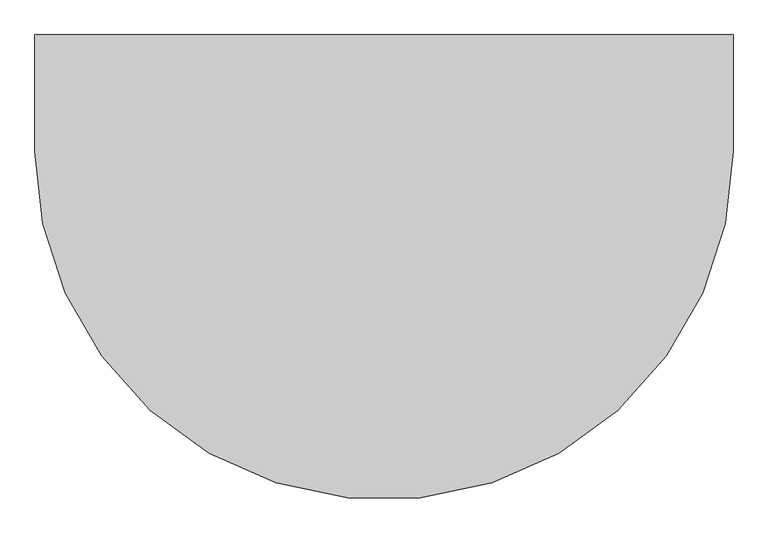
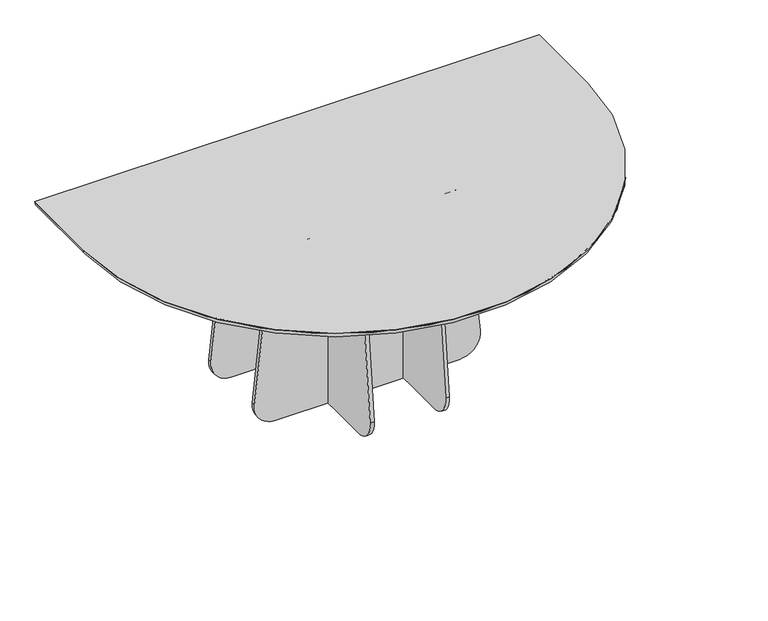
"""IFC4 building model written with IfcOpenShell, lengths in millimetres: furniture geometry, Lundbergs Möbler - Funghi Mèta - Table - Half Moon - 180 - H73 : Lundbergs Möbler - Funghi Mèta - Table - Half Moon - 180 - H73."""

from ifc_helpers import new_model, si_unit, point, frame, frame_2d, origin, place, context, project, spatial, polyline, circle_curve, ellipse_curve, trimmed, segment, composite_curve, outline, extrude, source, transform, mapped, element, save
from ifc_brep_helpers import plane_surface, cylinder_surface, revolved_surface, advanced_brep


def furniture_daae894f(model_context):
    return source(origin(), model_context, "Body", "SolidModel", [
        extrude(outline(composite_curve([segment(polyline([(328.9885604, 0.0), (-328.9885604, 0.0)]), True, "CONTINUOUS"), segment(trimmed(circle_curve(frame_2d((-328.9885604, 75.0)), 75.0), [point((-328.9885604, 0.0))], [point((-403.5717494, 82.8960696))], False, "CARTESIAN"), True, "CONTINUOUS"), segment(polyline([(-403.5717494, 82.8960696), (-338.2393517, 700.000378), (338.2393517, 700.000378), (338.722675, 695.435095), (338.722675, 0.6343694)]), True, "CONTINUOUS"), segment(trimmed(circle_curve(frame_2d((328.9885604, 75.0)), 75.0), [point((338.722675, 0.6343694))], [point((328.9885604, 0.0))], False, "CARTESIAN"), True, "CONTINUOUS")], self_intersect=False)), frame((-141.1465138, 0.0, 0.0), z_axis=(1.0, 0.0, 0.0), x_axis=(0.0, 1.0, 0.0)), (0.0, 0.0, 1.0), 13.4999997),
        extrude(outline(composite_curve([segment(polyline([(328.9885604, 0.0), (-328.9885604, 0.0)]), True, "CONTINUOUS"), segment(trimmed(circle_curve(frame_2d((-328.9885604, 75.0)), 75.0), [point((-328.9885604, 0.0))], [point((-403.5717494, 82.8960696))], False, "CARTESIAN"), True, "CONTINUOUS"), segment(polyline([(-403.5717494, 82.8960696), (-338.2393517, 700.000378), (338.2393517, 700.000378), (338.722675, 695.435095), (338.722675, 0.6343694)]), True, "CONTINUOUS"), segment(trimmed(circle_curve(frame_2d((328.9885604, 75.0)), 75.0), [point((338.722675, 0.6343694))], [point((328.9885604, 0.0))], False, "CARTESIAN"), True, "CONTINUOUS")], self_intersect=False)), frame((127.6465142, 0.0, 0.0), z_axis=(1.0, 0.0, 0.0), x_axis=(0.0, 1.0, 0.0)), (0.0, 0.0, 1.0), 13.4999997),
        advanced_brep(
        [(899.9999872, 356.1679038, 723.9631611), (899.9999872, 356.1679038, 722.4061073), (877.6980213, 356.1679038, 700.1041414), (-877.6979684, 356.1679038, 700.1041414), (-899.9999342, 356.1679038, 722.4061073), (-899.9999342, 356.1679038, 723.9631611), (-899.9999342, 56.0832467, 723.9631611), (899.9999872, 56.0832467, 723.9631611), (899.9999872, 56.0832467, 722.4061073), (877.6980213, 56.0832467, 700.1041414), (-877.6979684, 56.0832467, 700.1041414), (-899.9999342, 56.0832467, 722.4061073)],
        [
            (0, 1),
            (1, 2, circle_curve(frame((877.6980213, 356.1679038, 722.4061073), z_axis=(0.0, 1.0, 0.0), x_axis=(1.0, 0.0, 0.0)), 22.3019658)),
            (2, 3),
            (3, 4, circle_curve(frame((-877.6979684, 356.1679038, 722.4061073), z_axis=(0.0, 1.0, 0.0), x_axis=(-1.0, 0.0, 0.0)), 22.3019658)),
            (4, 5),
            (5, 0),
            (5, 6),
            (6, 7, circle_curve(frame((2.65e-05, 56.0832467, 723.9631611), z_axis=(0.0, 0.0, 1.0), x_axis=(1.0, 0.0, 0.0)), 899.9999607)),
            (7, 0),
            (7, 8),
            (8, 1),
            (8, 9, circle_curve(frame((877.6980213, 56.0832467, 722.4061073), z_axis=(0.0, 1.0, 0.0), x_axis=(1.0, 0.0, 0.0)), 22.3019658)),
            (9, 2),
            (9, 10, circle_curve(frame((2.65e-05, 56.0832467, 700.1041414), z_axis=(0.0, 0.0, -1.0), x_axis=(1.0, 0.0, 0.0)), 877.6979949)),
            (10, 3),
            (6, 11),
            (11, 8, circle_curve(frame((2.65e-05, 56.0832467, 722.4061073), z_axis=(0.0, 0.0, 1.0), x_axis=(1.0, 0.0, 0.0)), 899.9999607)),
            (11, 10, circle_curve(frame((-877.6979684, 56.0832467, 722.4061073), z_axis=(0.0, -1.0, 0.0), x_axis=(-1.0, 0.0, 0.0)), 22.3019658)),
            (4, 11),
        ],
        [
            plane_surface(frame((899.9999872, 356.1679038, 0.0), z_axis=(0.0, 1.0, 0.0), x_axis=(0.0, 0.0, 1.0))),
            plane_surface(frame((712.358192, 356.1679038, 723.9631611), z_axis=(0.0, 0.0, 1.0), x_axis=(0.0, -1.0, 0.0))),
            plane_surface(frame((899.9999872, 356.1679038, 723.9631611), z_axis=(1.0, 0.0, 0.0), x_axis=(0.0, -1.0, 0.0))),
            cylinder_surface(frame((877.6980213, 356.1679038, 722.4061073), z_axis=(0.0, 1.0, 0.0), x_axis=(1.0, 0.0, 0.0)), 22.3019658),
            plane_surface(frame((877.6980213, 356.1679038, 700.1041414), z_axis=(0.0, 0.0, -1.0), x_axis=(0.0, -1.0, 0.0))),
            cylinder_surface(frame((2.65e-05, 56.0832467, 0.0), z_axis=(0.0, 0.0, -1.0), x_axis=(1.0, 0.0, 0.0)), 899.9999607),
            revolved_surface(trimmed(ellipse_curve(frame((877.6980213, 56.0832467, 722.4061073), z_axis=(0.0, 1.0, 0.0), x_axis=(1.0, 0.0, 0.0)), 22.3019658, 22.3019658), [point((899.9999872, 56.0832467, 722.4061073))], [point((877.6980213, 56.0832467, 700.1041414))], True, "CARTESIAN"), (2.65e-05, 56.0832467, 0.0), (0.0, 0.0, -1.0)),
            plane_surface(frame((-899.9999342, 56.0832467, 723.9631611), z_axis=(-1.0, 0.0, 0.0), x_axis=(0.0, 1.0, 0.0))),
            cylinder_surface(frame((-877.6979684, 56.0832467, 722.4061073), z_axis=(0.0, -1.0, 0.0), x_axis=(-1.0, 0.0, 0.0)), 22.3019658),
        ],
        [
            (0, [[1, 2, 3, 4, 5, 6]]),
            (1, [[-6, 7, 8, 9]]),
            (2, [[-1, -9, 10, 11]]),
            (3, [[-2, -11, 12, 13]]),
            (4, [[-3, -13, 14, 15]]),
            (5, [[-8, 16, 17, -10]]),
            (6, [[-12, -17, 18, -14]]),
            (7, [[-7, -5, 19, -16]]),
            (8, [[-15, -18, -19, -4]]),
        ],
    ),
        extrude(outline(composite_curve([segment(trimmed(circle_curve(frame_2d((698.3873965, 196.2845895)), 8.5), [point((689.8873965, 196.2845895))], [point((698.3873965, 204.7845895))], False, "CARTESIAN"), True, "CONTINUOUS"), segment(polyline([(698.3873965, 204.7845895), (700.000378, 204.7845895), (700.000378, -204.7845895), (698.3873965, -204.7845895)]), True, "CONTINUOUS"), segment(trimmed(circle_curve(frame_2d((698.3873965, -196.2845895)), 8.5), [point((698.3873965, -204.7845895))], [point((689.8873965, -196.2845895))], False, "CARTESIAN"), True, "CONTINUOUS"), segment(polyline([(689.8873965, -196.2845895), (689.8873965, 196.2845895)]), True, "CONTINUOUS")], self_intersect=False)), frame((0.0, 242.5896085, 0.0), z_axis=(0.0, 1.0, 0.0), x_axis=(0.0, 0.0, 1.0)), (0.0, 0.0, 1.0), 40.0000216),
        extrude(outline(composite_curve([segment(trimmed(circle_curve(frame_2d((-196.2845895, 698.3873965)), 8.5), [point((-196.2845895, 689.8873965))], [point((-204.7845895, 698.3873965))], False, "CARTESIAN"), True, "CONTINUOUS"), segment(polyline([(-204.7845895, 698.3873965), (-204.7845895, 700.000378), (204.7845895, 700.000378), (204.7845895, 698.3873965)]), True, "CONTINUOUS"), segment(trimmed(circle_curve(frame_2d((196.2845895, 698.3873965)), 8.5), [point((204.7845895, 698.3873965))], [point((196.2845895, 689.8873965))], False, "CARTESIAN"), True, "CONTINUOUS"), segment(polyline([(196.2845895, 689.8873965), (-196.2845895, 689.8873965)]), True, "CONTINUOUS")], self_intersect=False)), frame((242.5896085, 0.0, 0.0), z_axis=(1.0, 0.0, 0.0), x_axis=(0.0, 1.0, 0.0)), (0.0, 0.0, 1.0), 40.0000216),
        extrude(outline(composite_curve([segment(trimmed(circle_curve(frame_2d((-196.2845895, 698.3873965)), 8.5), [point((-196.2845895, 689.8873965))], [point((-204.7845895, 698.3873965))], False, "CARTESIAN"), True, "CONTINUOUS"), segment(polyline([(-204.7845895, 698.3873965), (-204.7845895, 700.000378), (204.7845895, 700.000378), (204.7845895, 698.3873965)]), True, "CONTINUOUS"), segment(trimmed(circle_curve(frame_2d((196.2845895, 698.3873965)), 8.5), [point((204.7845895, 698.3873965))], [point((196.2845895, 689.8873965))], False, "CARTESIAN"), True, "CONTINUOUS"), segment(polyline([(196.2845895, 689.8873965), (-196.2845895, 689.8873965)]), True, "CONTINUOUS")], self_intersect=False)), frame((-282.5896301, 0.0, 0.0), z_axis=(1.0, 0.0, 0.0), x_axis=(0.0, 1.0, 0.0)), (0.0, 0.0, 1.0), 40.0000216),
        extrude(outline(composite_curve([segment(trimmed(circle_curve(frame_2d((698.3873965, 196.2845895)), 8.5), [point((689.8873965, 196.2845895))], [point((698.3873965, 204.7845895))], False, "CARTESIAN"), True, "CONTINUOUS"), segment(polyline([(698.3873965, 204.7845895), (700.000378, 204.7845895), (700.000378, -204.7845895), (698.3873965, -204.7845895)]), True, "CONTINUOUS"), segment(trimmed(circle_curve(frame_2d((698.3873965, -196.2845895)), 8.5), [point((698.3873965, -204.7845895))], [point((689.8873965, -196.2845895))], False, "CARTESIAN"), True, "CONTINUOUS"), segment(polyline([(689.8873965, -196.2845895), (689.8873965, 196.2845895)]), True, "CONTINUOUS")], self_intersect=False)), frame((0.0, -282.5896301, 0.0), z_axis=(0.0, 1.0, 0.0), x_axis=(0.0, 0.0, 1.0)), (0.0, 0.0, 1.0), 40.0000216),
        extrude(outline(composite_curve([segment(trimmed(circle_curve(frame_2d((75.0, -328.9885604)), 75.0), [point((82.8960696, -403.5717494))], [point((0.0, -328.9885604))], False, "CARTESIAN"), True, "CONTINUOUS"), segment(polyline([(0.0, -328.9885604), (0.0, 328.9885604)]), True, "CONTINUOUS"), segment(trimmed(circle_curve(frame_2d((75.0, 328.9885604)), 75.0), [point((0.0, 328.9885604))], [point((82.8960696, 403.5717494))], False, "CARTESIAN"), True, "CONTINUOUS"), segment(polyline([(82.8960696, 403.5717494), (700.000378, 338.2393517), (700.000378, -338.2393517), (82.8960696, -403.5717494)]), True, "CONTINUOUS")], self_intersect=False)), frame((0.0, 127.6465142, 0.0), z_axis=(0.0, 1.0, 0.0), x_axis=(0.0, 0.0, 1.0)), (0.0, 0.0, 1.0), 13.4999997),
        extrude(outline(composite_curve([segment(trimmed(circle_curve(frame_2d((75.0, -328.9885604)), 75.0), [point((82.8960696, -403.5717494))], [point((0.0, -328.9885604))], False, "CARTESIAN"), True, "CONTINUOUS"), segment(polyline([(0.0, -328.9885604), (0.0, 328.9885604)]), True, "CONTINUOUS"), segment(trimmed(circle_curve(frame_2d((75.0, 328.9885604)), 75.0), [point((0.0, 328.9885604))], [point((82.8960696, 403.5717494))], False, "CARTESIAN"), True, "CONTINUOUS"), segment(polyline([(82.8960696, 403.5717494), (700.000378, 338.2393517), (700.000378, -338.2393517), (82.8960696, -403.5717494)]), True, "CONTINUOUS")], self_intersect=False)), frame((0.0, -141.1465138, 0.0), z_axis=(0.0, 1.0, 0.0), x_axis=(0.0, 0.0, 1.0)), (0.0, 0.0, 1.0), 13.4999997),
    ])


if __name__ == "__main__":
    model = new_model("IFC4")
    model_context = context("Model", 3, world=origin())
    ifc_project = project(units=[si_unit("LENGTHUNIT", "METRE", prefix="MILLI")], contexts=[model_context])
    site = spatial("IfcSite", under=ifc_project)
    building = spatial("IfcBuilding", under=site)
    placement = place(None, origin())
    furniture_shape = furniture_daae894f(model_context)
    element("IfcFurniture", 1, ObjectType="Lundbergs Möbler - Funghi Mèta - Table - Half Moon - 180 - H73 : Lundbergs Möbler - Funghi Mèta - Table - Half Moon - 180 - H73", at=placement, inside=building, context=model_context, shape_type="MappedRepresentation", body=[
        mapped(furniture_shape, transform((0.0, 0.0, 0.0), x_axis=(1.0, 0.0, 0.0), y_axis=(0.0, 1.0, 0.0), z_axis=(0.0, 0.0, 1.0))),
    ])
    save(model, "model.ifc")
